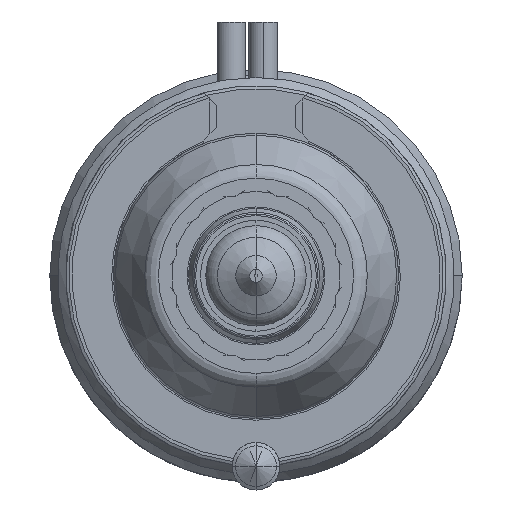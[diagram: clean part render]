
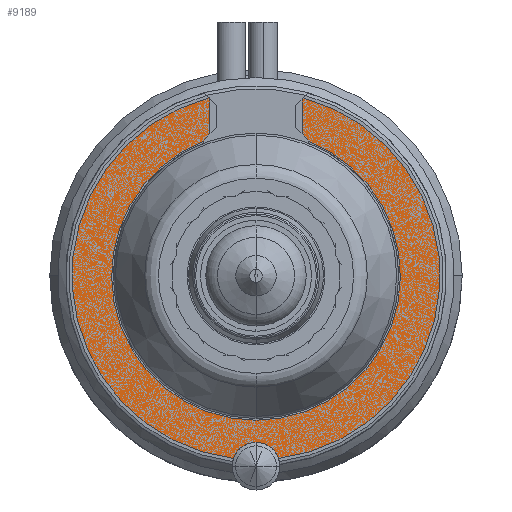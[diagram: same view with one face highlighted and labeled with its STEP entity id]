
A CAD part, front view. The second image highlights one B-rep face of the part: STEP entity #9189.
In plain terms, the highlighted planar face has unit normal (0, -1, 0).
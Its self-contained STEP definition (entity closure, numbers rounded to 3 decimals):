
#594=DIRECTION('',(0.707,0.,-0.707));
#595=VECTOR('',#594,0.092);
#596=CARTESIAN_POINT('',(-2.965,-22.,11.215));
#597=LINE('',#596,#595);
#1553=CARTESIAN_POINT('',(0.,-22.,6.2));
#1554=DIRECTION('',(0.,1.,0.));
#1555=DIRECTION('',(0.725,0.,0.689));
#1556=AXIS2_PLACEMENT_3D('',#1553,#1554,#1555);
#1568=CARTESIAN_POINT('',(0.,-22.,-12.));
#1569=DIRECTION('',(0.,1.,0.));
#1570=DIRECTION('',(-0.946,0.,0.325));
#1571=AXIS2_PLACEMENT_3D('',#1568,#1569,#1570);
#1587=CARTESIAN_POINT('',(0.,-22.,0.));
#1588=DIRECTION('',(0.,1.,0.));
#1589=DIRECTION('',(-0.122,0.,-0.992));
#1590=AXIS2_PLACEMENT_3D('',#1587,#1588,#1589);
#1599=CARTESIAN_POINT('',(0.,-22.,0.));
#1600=DIRECTION('',(0.,1.,0.));
#1601=DIRECTION('',(0.256,0.,0.967));
#1602=AXIS2_PLACEMENT_3D('',#1599,#1600,#1601);
#1615=DIRECTION('',(-0.707,0.,-0.707));
#1616=VECTOR('',#1615,0.092);
#1617=CARTESIAN_POINT('',(2.965,-22.,11.215));
#1618=LINE('',#1617,#1616);
#1623=DIRECTION('',(0.,0.,-1.));
#1624=VECTOR('',#1623,2.195);
#1625=CARTESIAN_POINT('',(2.9,-22.,11.15));
#1626=LINE('',#1625,#1624);
#1654=DIRECTION('',(0.,0.,1.));
#1655=VECTOR('',#1654,2.195);
#1656=CARTESIAN_POINT('',(-2.9,-22.,8.955));
#1657=LINE('',#1656,#1655);
#1689=CARTESIAN_POINT('',(0.,-22.,6.2));
#1690=DIRECTION('',(0.,1.,0.));
#1691=DIRECTION('',(-0.82,0.,0.572));
#1692=AXIS2_PLACEMENT_3D('',#1689,#1690,#1691);
#1704=CARTESIAN_POINT('',(0.,-22.,0.));
#1705=DIRECTION('',(0.,-1.,0.));
#1706=DIRECTION('',(-0.361,0.,0.933));
#1707=AXIS2_PLACEMENT_3D('',#1704,#1705,#1706);
#7377=CARTESIAN_POINT('',(2.965,-22.,11.215));
#7378=CARTESIAN_POINT('',(2.9,-22.,11.15));
#7379=VERTEX_POINT('',#7377);
#7380=VERTEX_POINT('',#7378);
#7385=CARTESIAN_POINT('',(-2.965,-22.,11.215));
#7386=CARTESIAN_POINT('',(-2.9,-22.,11.15));
#7387=VERTEX_POINT('',#7385);
#7388=VERTEX_POINT('',#7386);
#7423=CARTESIAN_POINT('',(2.9,-22.,8.955));
#7424=CARTESIAN_POINT('',(3.281,-22.,8.488));
#7425=VERTEX_POINT('',#7423);
#7426=VERTEX_POINT('',#7424);
#7427=CARTESIAN_POINT('',(-3.281,-22.,8.488));
#7428=CARTESIAN_POINT('',(-2.9,-22.,8.955));
#7429=VERTEX_POINT('',#7427);
#7430=VERTEX_POINT('',#7428);
#7572=CARTESIAN_POINT('',(-1.419,-22.,-11.513));
#7573=CARTESIAN_POINT('',(1.419,-22.,-11.513));
#7574=VERTEX_POINT('',#7572);
#7575=VERTEX_POINT('',#7573);
#9165=CARTESIAN_POINT('',(0.,-22.,0.));
#9166=DIRECTION('',(0.,-1.,0.));
#9167=DIRECTION('',(-1.,0.,0.));
#9168=AXIS2_PLACEMENT_3D('',#9165,#9166,#9167);
#9169=PLANE('',#9168);
#9170=ORIENTED_EDGE('',*,*,#8652,.F.);
#9172=ORIENTED_EDGE('',*,*,#9171,.T.);
#9173=ORIENTED_EDGE('',*,*,#8772,.T.);
#9175=ORIENTED_EDGE('',*,*,#9174,.F.);
#9177=ORIENTED_EDGE('',*,*,#9176,.F.);
#9179=ORIENTED_EDGE('',*,*,#9178,.T.);
#9180=ORIENTED_EDGE('',*,*,#9144,.F.);
#9182=ORIENTED_EDGE('',*,*,#9181,.F.);
#9184=ORIENTED_EDGE('',*,*,#9183,.F.);
#9186=ORIENTED_EDGE('',*,*,#9185,.T.);
#9187=EDGE_LOOP('',(#9170,#9172,#9173,#9175,#9177,#9179,#9180,#9182,#9184,
#9186));
#9188=FACE_OUTER_BOUND('',#9187,.F.);
#9189=ADVANCED_FACE('',(#9188),#9169,.T.);
#1557=CIRCLE('',#1556,4.);
#1572=CIRCLE('',#1571,1.5);
#1591=CIRCLE('',#1590,11.6);
#1603=CIRCLE('',#1602,11.6);
#1693=CIRCLE('',#1692,4.);
#1708=CIRCLE('',#1707,9.1);
#8652=EDGE_CURVE('',#7574,#7575,#1572,.T.);
#8772=EDGE_CURVE('',#7387,#7388,#597,.T.);
#9144=EDGE_CURVE('',#7425,#7426,#1557,.T.);
#9171=EDGE_CURVE('',#7574,#7387,#1591,.T.);
#9174=EDGE_CURVE('',#7430,#7388,#1657,.T.);
#9176=EDGE_CURVE('',#7429,#7430,#1693,.T.);
#9178=EDGE_CURVE('',#7429,#7426,#1708,.T.);
#9181=EDGE_CURVE('',#7380,#7425,#1626,.T.);
#9183=EDGE_CURVE('',#7379,#7380,#1618,.T.);
#9185=EDGE_CURVE('',#7379,#7575,#1603,.T.);
